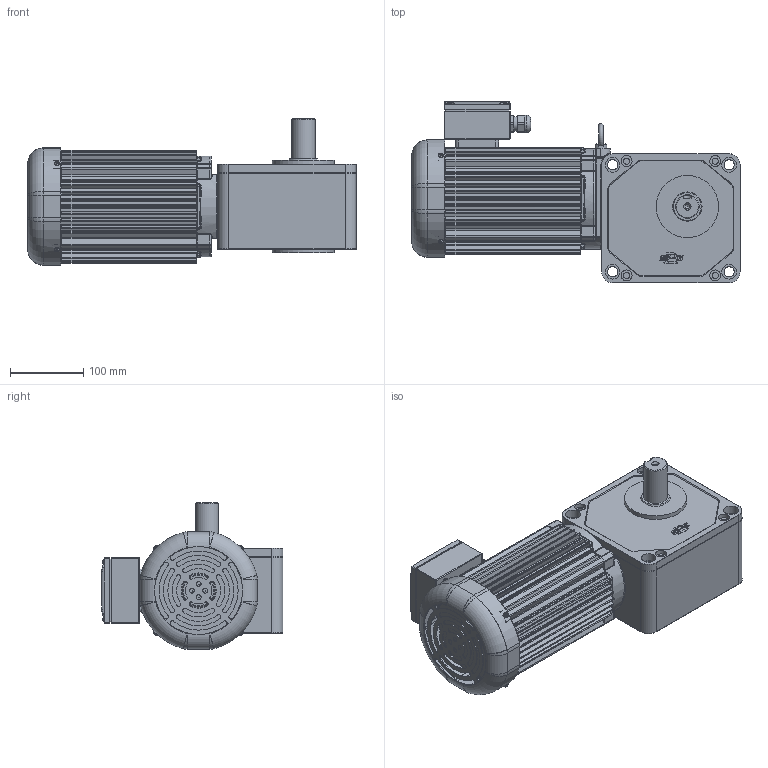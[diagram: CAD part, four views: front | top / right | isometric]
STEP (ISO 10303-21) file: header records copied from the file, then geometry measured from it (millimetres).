
FILE_DESCRIPTION(/* description */ (''),/* implementation_level */ '2;1');
FILE_NAME(/* name */ 'Z:\동력 3D 파일\PCS32L-(5~60)-PA(B)075[ ]T.stp',/* time_stamp */ '2022-05-02T14:32:03+09:00',/* author */ ('jaebok'),/* organization */ (''),/* preprocessor_version */ 'ST-DEVELOPER v18.1',/* originating_system */ 'Autodesk Inventor 2022',/* authorisation */ '');
FILE_SCHEMA (('AUTOMOTIVE_DESIGN { 1 0 10303 214 3 1 1 }'));
Products named in the file (1): 부품3
Bounding box: 448 x 248 x 200.2 mm (x, y, z)
Volume: 2852430.6 mm3; surface area: 770122.9 mm2
Topology: 1 solids, 26 shells, 2121 faces, 5416 edges, 3368 vertices
Faces by surface type: plane 868, cylinder 770, bspline 202, torus 172, cone 61, sphere 48
Full cylindrical faces by diameter (mm): 3.25 x1, 3.5 x4, 3.6 x4, 4 x22, 5 x13, 6 x8, 6.647 x2, 7 x13, 8 x5, 8.5 x4, 10 x1, 12.5 x1, 14 x4, 15 x5, 18 x1, 20 x14, 20.6 x1, 21 x1, 23.6 x1, 25 x1, 30 x1, 32 x1, 40 x3, 44 x1, 54.5 x1, 68 x1, 72 x2, 85 x2, 125 x1, 128 x2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
Entity records: 70854 total; most frequent: CARTESIAN_POINT 19517, DIRECTION 10943, ORIENTED_EDGE 10712, EDGE_CURVE 5356, AXIS2_PLACEMENT_3D 4225, VERTEX_POINT 3368, LINE 2493, VECTOR 2493
